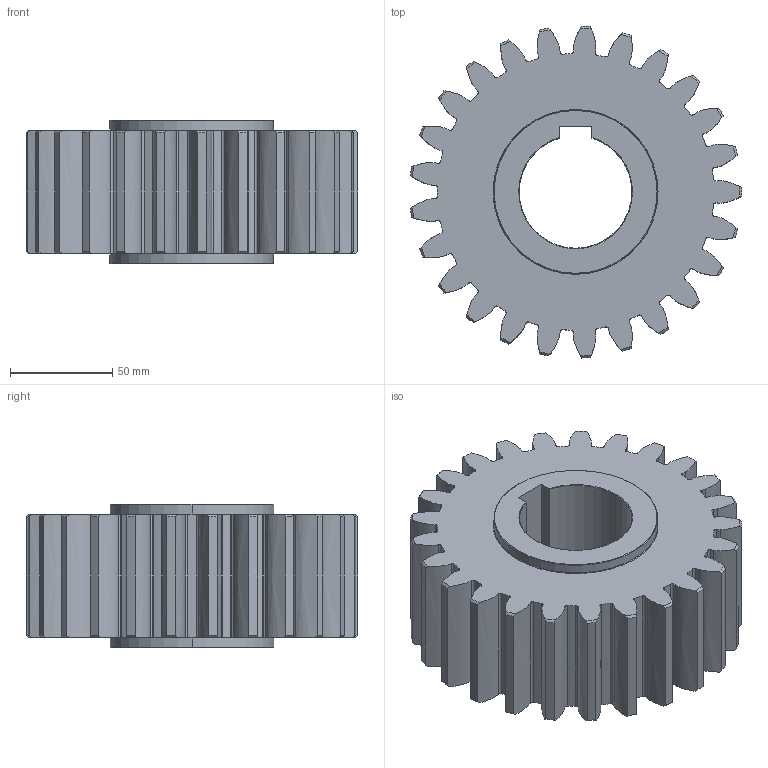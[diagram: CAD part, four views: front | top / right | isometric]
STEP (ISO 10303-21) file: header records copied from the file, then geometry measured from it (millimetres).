
FILE_DESCRIPTION (( 'STEP AP214' ), '1' );
FILE_NAME ('1SG__S060025S.STEP', '2021-08-03T07:56:40', ( '' ), ( '' ), 'SwSTEP 2.0', 'SolidWorks 2021', '' );
FILE_SCHEMA (( 'AUTOMOTIVE_DESIGN' ));
Length unit declared in the file: millimetre
Products named in the file (1): 1SG__S060025S
Bounding box: 161.6 x 161.89 x 70 mm (x, y, z)
Volume: 920742.8 mm3; surface area: 102387.5 mm2
Topology: 1 solids, 1 shells, 268 faces, 830 edges, 566 vertices
Faces by surface type: cylinder 96, bspline 75, cone 61, plane 32, torus 4
Entity records: 17252 total; most frequent: CARTESIAN_POINT 10102, ORIENTED_EDGE 1660, DIRECTION 1326, EDGE_CURVE 830, VERTEX_POINT 566, AXIS2_PLACEMENT_3D 506, VECTOR 314, LINE 314
